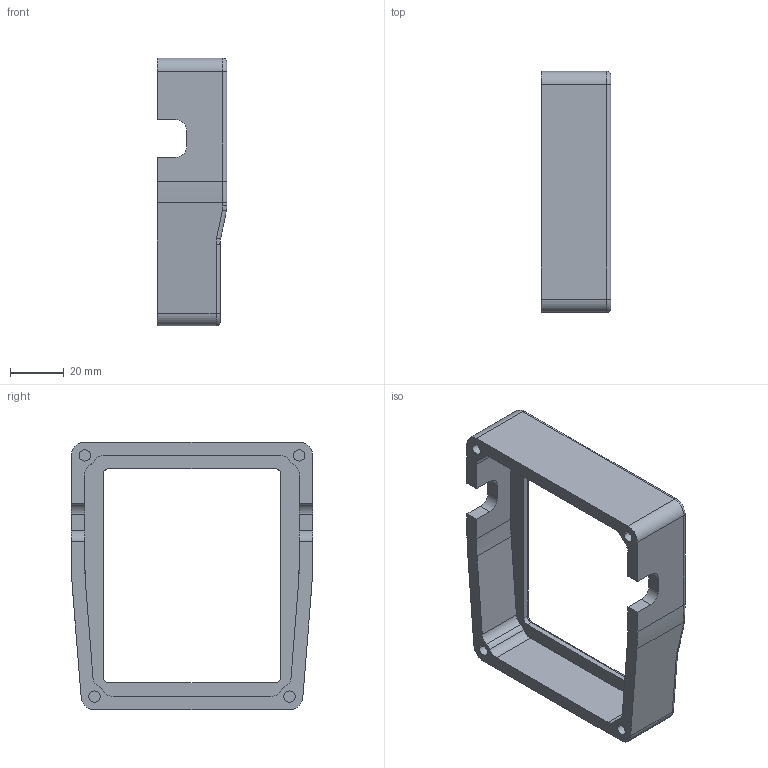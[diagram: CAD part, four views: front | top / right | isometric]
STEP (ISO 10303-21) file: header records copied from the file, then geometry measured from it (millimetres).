
FILE_DESCRIPTION(('CATIA V5 STEP Exchange','CAx-IF Rec.Pracs.--- Model Styling and Organization---1.4--- 2014-01-23'),'2;1');
FILE_NAME('D:\모델\플래그\플래그\일반\case1.stp','2026-07-14T16:03:40+00:00',('none'),('none'),'CATIA Version 5-6 Release 2018','CATIA V5 STEP AP214','none');
FILE_SCHEMA(('AUTOMOTIVE_DESIGN { 1 0 10303 214 1 1 1 1 }'));
Length unit declared in the file: millimetre
Products named in the file (1): Part1
Bounding box: 26 x 90 x 100 mm (x, y, z)
Volume: 47209.1 mm3; surface area: 23835 mm2
Topology: 1 solids, 1 shells, 134 faces, 336 edges, 208 vertices
Faces by surface type: cylinder 70, plane 40, torus 16, bspline 8
Entity records: 4218 total; most frequent: CARTESIAN_POINT 1204, ORIENTED_EDGE 672, DIRECTION 505, EDGE_CURVE 336, AXIS2_PLACEMENT_3D 230, VERTEX_POINT 208, VECTOR 170, LINE 170
